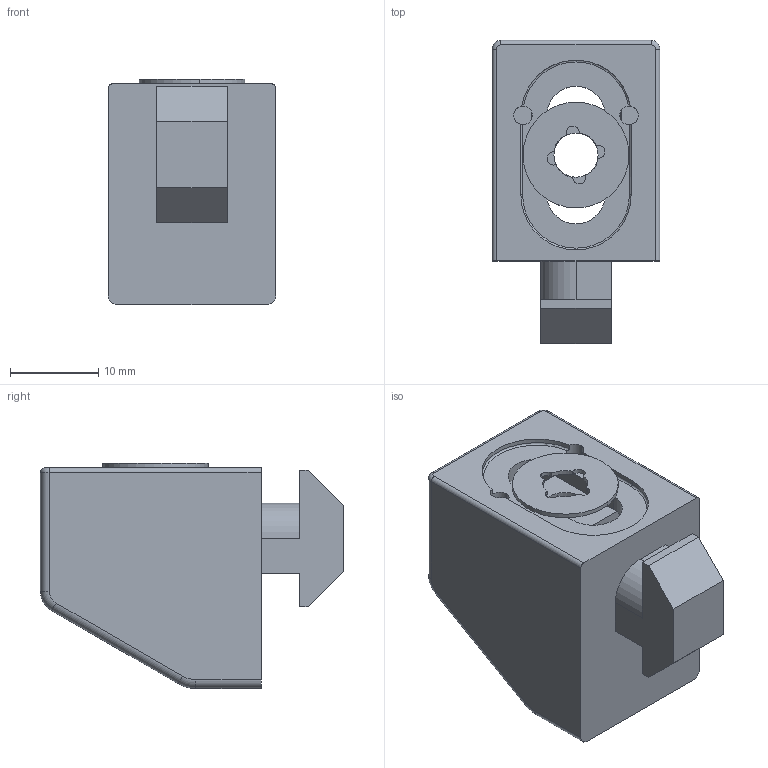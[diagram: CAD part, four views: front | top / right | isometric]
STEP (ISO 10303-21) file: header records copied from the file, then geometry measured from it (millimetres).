
FILE_DESCRIPTION(('STEP AP242'),'1');
FILE_NAME('fath_094003csm6.stp','2021-04-01T11:12:48',('TraceParts'),('TraceParts S.A.'),'Spatial InterOp 3D',' ',' ');
FILE_SCHEMA(('AP242_MANAGED_MODEL_BASED_3D_ENGINEERING_MIM_LF {1 0 10303 442 1 1 4}'));
Length unit declared in the file: millimetre
Products named in the file (1): fath_094003csm6_1
Bounding box: 19 x 34.35 x 25.5 mm (x, y, z)
Volume: 6094.7 mm3; surface area: 5009.3 mm2
Topology: 3 solids, 3 shells, 130 faces, 341 edges, 220 vertices
Faces by surface type: plane 72, cylinder 46, torus 12
Entity records: 4092 total; most frequent: CARTESIAN_POINT 724, DIRECTION 705, ORIENTED_EDGE 682, EDGE_CURVE 341, AXIS2_PLACEMENT_3D 237, LINE 231, VECTOR 231, VERTEX_POINT 220
